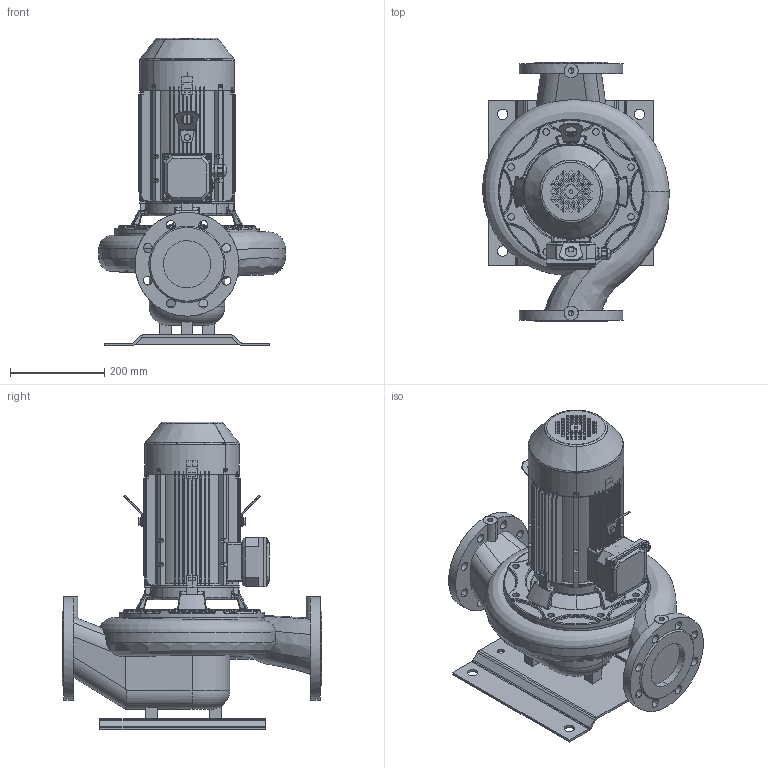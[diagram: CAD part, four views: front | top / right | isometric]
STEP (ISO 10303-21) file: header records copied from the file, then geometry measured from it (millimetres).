
FILE_DESCRIPTION(('STEP AP214'),'1');
FILE_NAME('export.stp','2018-05-28T09:58:43',(' '),(' '),'Spatial InterOp 3D',' ',' ');
FILE_SCHEMA(('AUTOMOTIVE_DESIGN { 1 0 10303 214 1 1 1 1 }'));
Length unit declared in the file: millimetre
Products named in the file (27): W_AKN1004300KP100; V_TLAKN100127; V_PPAKN100; P100496; P100495; P100342; 160028; 160007; V_MKP100-2_N26; 160141; 160137; 160138; 160139; 160140; Koura_Ale_M5; Plug_Blind_M20; Sealing_Plug_M20; DIN_7985-M5X8; DIN_7985-M5X12; 480041; 480040___; 480043; 480042___; 160134; DIN_EN_24017_-_M8_16-Stainless_S; DIN_912-M8X25_DIN_912_M8_x_25_--; 160136
Assembly tree (32 placements, depth 4):
  W_AKN1004300KP100
    V_TLAKN100127
    V_PPAKN100
    P100496
      P100495  x2
      P100342
    V_MKP100-2_N26
      160028
        160007
      160141
        160137
        160138
        160139
        160140
        Koura_Ale_M5
        Plug_Blind_M20
        Sealing_Plug_M20
        DIN_7985-M5X8
        DIN_7985-M5X12  x4
      480041
        480040___
      480043
        480042___
      160134  x2
      DIN_EN_24017_-_M8_16-Stainless_S  x2
      DIN_912-M8X25_DIN_912_M8_x_25_--
      160136
Bounding box: 395.22 x 550 x 651.36 mm (x, y, z)
Volume: 18493428.1 mm3; surface area: 2233099.8 mm2
Topology: 26 solids, 26 shells, 2658 faces, 7019 edges, 4412 vertices
Faces by surface type: plane 1117, cylinder 798, torus 264, bspline 264, cone 185, sphere 30
Entity records: 100328 total; most frequent: CARTESIAN_POINT 35036, ORIENTED_EDGE 13338, DIRECTION 12441, EDGE_CURVE 6669, AXIS2_PLACEMENT_3D 4704, VERTEX_POINT 4226, LINE 3033, VECTOR 3033
